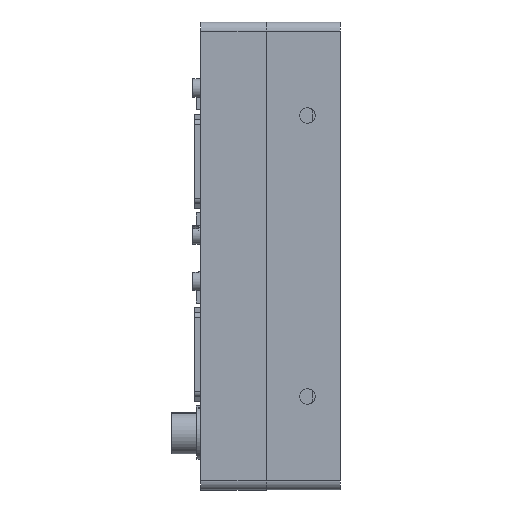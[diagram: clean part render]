
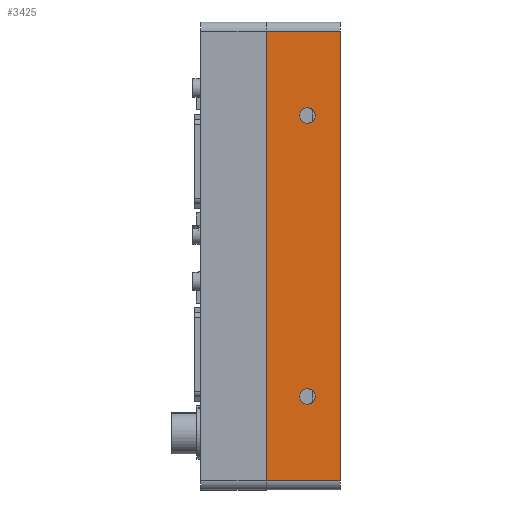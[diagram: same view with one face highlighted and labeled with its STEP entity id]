
A CAD part, left-side view. The second image highlights one B-rep face of the part: STEP entity #3425.
In plain terms, the highlighted planar face has unit normal (-1, 0, 0).
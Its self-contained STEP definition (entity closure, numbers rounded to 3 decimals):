
#961 = CARTESIAN_POINT ( 'NONE',  ( -50., 0., -48. ) ) ;
#964 = CARTESIAN_POINT ( 'NONE',  ( -50., 15.83, 48. ) ) ;
#972 = CARTESIAN_POINT ( 'NONE',  ( -50., 0., 48. ) ) ;
#2520 = VECTOR ( 'NONE', #2760, 1000. ) ;
#2526 = CIRCLE ( 'NONE', #2529, 1.65 ) ;
#2528 = CIRCLE ( 'NONE', #2531, 1.65 ) ;
#2529 = AXIS2_PLACEMENT_3D ( 'NONE', #2770, #2771, #2772 ) ;
#2531 = AXIS2_PLACEMENT_3D ( 'NONE', #2774, #2775, #2776 ) ;
#2594 = VECTOR ( 'NONE', #2916, 1000. ) ;
#2719 = VECTOR ( 'NONE', #3176, 1000. ) ;
#2723 = VECTOR ( 'NONE', #3189, 1000. ) ;
#2757 = LINE ( 'NONE', #2759, #2520 ) ;
#2759 = CARTESIAN_POINT ( 'NONE',  ( -50., 18.6, -48. ) ) ;
#2760 = DIRECTION ( 'NONE',  ( 0., -1., 0. ) ) ;
#2770 = CARTESIAN_POINT ( 'NONE',  ( -50., 7., -30. ) ) ;
#2771 = DIRECTION ( 'NONE',  ( -1., 0., 0. ) ) ;
#2772 = DIRECTION ( 'NONE',  ( 0., 0., 1. ) ) ;
#2774 = CARTESIAN_POINT ( 'NONE',  ( -50., 7., 30. ) ) ;
#2775 = DIRECTION ( 'NONE',  ( -1., 0., 0. ) ) ;
#2776 = DIRECTION ( 'NONE',  ( 0., 0., 1. ) ) ;
#2904 = CARTESIAN_POINT ( 'NONE',  ( -50., 15.83, -48. ) ) ;
#2910 = LINE ( 'NONE', #2904, #2594 ) ;
#2916 = DIRECTION ( 'NONE',  ( 0., 0., 1. ) ) ;
#3174 = LINE ( 'NONE', #3175, #2719 ) ;
#3175 = CARTESIAN_POINT ( 'NONE',  ( -50., 18.6, 48. ) ) ;
#3176 = DIRECTION ( 'NONE',  ( 0., 1., 0. ) ) ;
#3177 = CARTESIAN_POINT ( 'NONE',  ( -50., 0., 50. ) ) ;
#3178 = LINE ( 'NONE', #3177, #2723 ) ;
#3189 = DIRECTION ( 'NONE',  ( 0., 0., 1. ) ) ;
#3425 = ADVANCED_FACE ( 'NONE', ( #6665, #6660, #6667 ), #6668, .F. ) ;
#3821 = VERTEX_POINT ( 'NONE', #7246 ) ;
#3991 = VERTEX_POINT ( 'NONE', #7416 ) ;
#4011 = VERTEX_POINT ( 'NONE', #7436 ) ;
#4037 = VERTEX_POINT ( 'NONE', #7462 ) ;
#4141 = VERTEX_POINT ( 'NONE', #7566 ) ;
#4270 = EDGE_LOOP ( 'NONE', ( #5659, #5660, #5661, #5662 ) ) ;
#4272 = EDGE_LOOP ( 'NONE', ( #5655, #5656 ) ) ;
#4297 = EDGE_LOOP ( 'NONE', ( #5657, #5658 ) ) ;
#4615 = EDGE_CURVE ( 'NONE', #4141, #4037, #8061, .T. ) ;
#4633 = EDGE_CURVE ( 'NONE', #4011, #3991, #9450, .T. ) ;
#5655 = ORIENTED_EDGE ( 'NONE', *, *, #10819, .F. ) ;
#5656 = ORIENTED_EDGE ( 'NONE', *, *, #4633, .F. ) ;
#5657 = ORIENTED_EDGE ( 'NONE', *, *, #10820, .F. ) ;
#5658 = ORIENTED_EDGE ( 'NONE', *, *, #4615, .F. ) ;
#5659 = ORIENTED_EDGE ( 'NONE', *, *, #10867, .F. ) ;
#5660 = ORIENTED_EDGE ( 'NONE', *, *, #10815, .T. ) ;
#5661 = ORIENTED_EDGE ( 'NONE', *, *, #10957, .T. ) ;
#5662 = ORIENTED_EDGE ( 'NONE', *, *, #10953, .T. ) ;
#6659 = DIRECTION ( 'NONE',  ( 1., 0., 0. ) ) ;
#6660 = FACE_BOUND ( 'NONE', #4297, .T. ) ;
#6664 = CARTESIAN_POINT ( 'NONE',  ( -50., 18.6, 50. ) ) ;
#6665 = FACE_BOUND ( 'NONE', #4272, .T. ) ;
#6667 = FACE_OUTER_BOUND ( 'NONE', #4270, .T. ) ;
#6668 = PLANE ( 'NONE',  #8399 ) ;
#6670 = DIRECTION ( 'NONE',  ( 0., 0., -1. ) ) ;
#7246 = CARTESIAN_POINT ( 'NONE',  ( -50., 15.83, -48. ) ) ;
#7416 = CARTESIAN_POINT ( 'NONE',  ( -50., 7., -28.35 ) ) ;
#7436 = CARTESIAN_POINT ( 'NONE',  ( -50., 7., -31.65 ) ) ;
#7462 = CARTESIAN_POINT ( 'NONE',  ( -50., 7., 31.65 ) ) ;
#7566 = CARTESIAN_POINT ( 'NONE',  ( -50., 7., 28.35 ) ) ;
#8061 = CIRCLE ( 'NONE', #8064, 1.65 ) ;
#8064 = AXIS2_PLACEMENT_3D ( 'NONE', #9132, #9133, #9134 ) ;
#8399 = AXIS2_PLACEMENT_3D ( 'NONE', #6664, #6659, #6670 ) ;
#9132 = CARTESIAN_POINT ( 'NONE',  ( -50., 7., 30. ) ) ;
#9133 = DIRECTION ( 'NONE',  ( -1., 0., 0. ) ) ;
#9134 = DIRECTION ( 'NONE',  ( 0., 0., 1. ) ) ;
#9186 = CARTESIAN_POINT ( 'NONE',  ( -50., 7., -30. ) ) ;
#9187 = DIRECTION ( 'NONE',  ( -1., 0., 0. ) ) ;
#9188 = DIRECTION ( 'NONE',  ( 0., 0., 1. ) ) ;
#9450 = CIRCLE ( 'NONE', #9453, 1.65 ) ;
#9453 = AXIS2_PLACEMENT_3D ( 'NONE', #9186, #9187, #9188 ) ;
#10506 = VERTEX_POINT ( 'NONE', #961 ) ;
#10509 = VERTEX_POINT ( 'NONE', #964 ) ;
#10517 = VERTEX_POINT ( 'NONE', #972 ) ;
#10815 = EDGE_CURVE ( 'NONE', #3821, #10506, #2757, .T. ) ;
#10819 = EDGE_CURVE ( 'NONE', #3991, #4011, #2526, .T. ) ;
#10820 = EDGE_CURVE ( 'NONE', #4037, #4141, #2528, .T. ) ;
#10867 = EDGE_CURVE ( 'NONE', #3821, #10509, #2910, .T. ) ;
#10953 = EDGE_CURVE ( 'NONE', #10517, #10509, #3174, .T. ) ;
#10957 = EDGE_CURVE ( 'NONE', #10506, #10517, #3178, .T. ) ;
